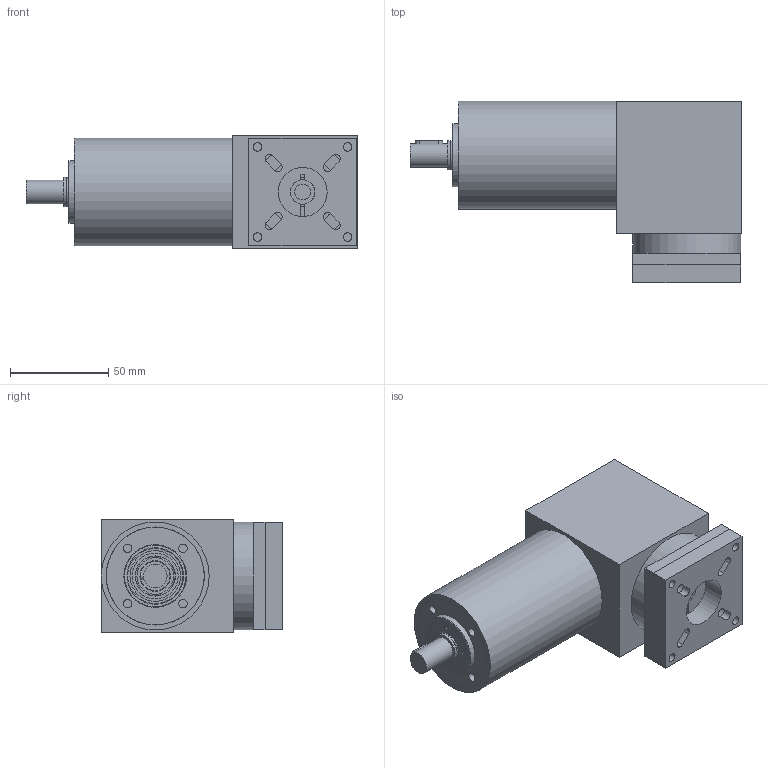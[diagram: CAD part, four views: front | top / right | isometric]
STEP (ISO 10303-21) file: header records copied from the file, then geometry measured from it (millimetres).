
FILE_DESCRIPTION(/* description */ (''),/* implementation_level */ '2;1');
FILE_NAME(/* name */ 'MP G_053 3 729 17 8 25 25 36.stp',/* time_stamp */ '2012-01-23T16:55:43+01:00',/* author */ (''),/* organization */ (''),/* preprocessor_version */ 'ST-DEVELOPER v11',/* originating_system */ 'SIEMENS PLM Software NX 7.5',/* authorisation */ '');
FILE_SCHEMA (('CONFIG_CONTROL_DESIGN'));
Length unit declared in the file: millimetre
Products named in the file (1): TIR2CCE29dav
Bounding box: 169.1 x 92.5 x 58 mm (x, y, z)
Volume: 508745.2 mm3; surface area: 83490.3 mm2
Topology: 13 solids, 13 shells, 184 faces, 415 edges, 267 vertices
Faces by surface type: plane 85, cylinder 70, cone 19, torus 10
Full cylindrical faces by diameter (mm): 3.432 x1, 4.351 x8, 4.5 x1, 5.5 x4, 7.5 x1, 8 x1, 9.75 x1, 12 x1, 12.5 x1, 14.3 x1, 15 x4, 18.7 x2, 20.5 x2, 25 x1, 27 x2, 28.2 x4, 32 x1, 35.5 x1, 46.8 x1, 49.95 x1, 50 x4, 55 x2
Entity records: 4913 total; most frequent: CARTESIAN_POINT 875, DIRECTION 863, ORIENTED_EDGE 654, AXIS2_PLACEMENT_3D 355, EDGE_CURVE 327, EDGE_LOOP 308, VERTEX_POINT 253, FACE_BOUND 235
